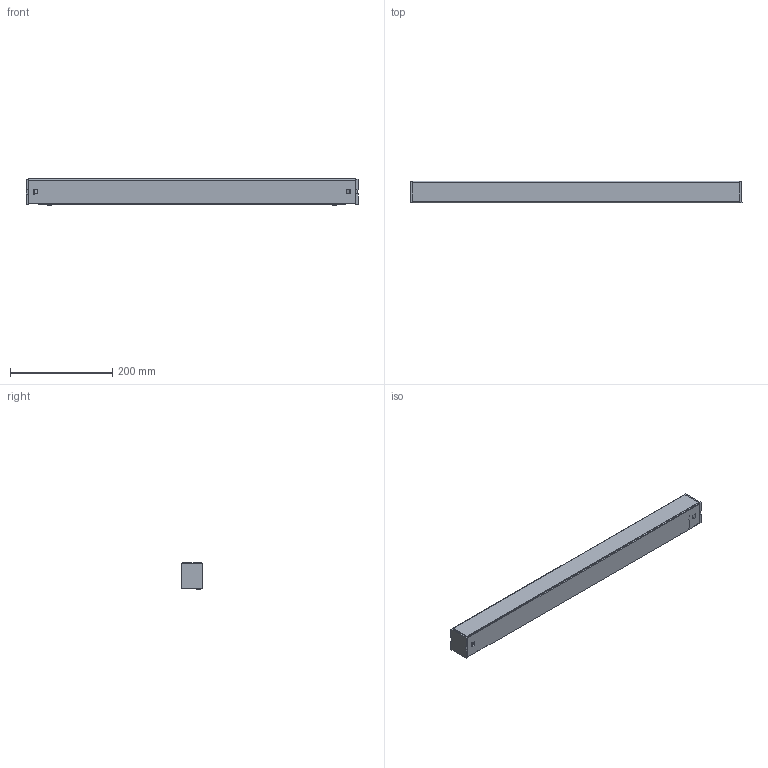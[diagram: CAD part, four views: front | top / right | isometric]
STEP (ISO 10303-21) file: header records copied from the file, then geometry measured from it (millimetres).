
FILE_DESCRIPTION((''),'2;1');
FILE_NAME('1617184683945_ASM','2021-03-31T15:28:22',('SESA176331'),('Schneider-Electric'),'CREO PARAMETRIC BY PTC INC, 2019164','CREO PARAMETRIC BY PTC INC, 2019164','');
FILE_SCHEMA(('AP242_MANAGED_MODEL_BASED_3D_ENGINEERING_MIM_LF { 1 0 10303 442 1 1 4 }'));
Length unit declared in the file: millimetre
Products named in the file (8): SETP-COVER-650_NNZ4557101; SETP-COVER-650_NNZ1946001; SETP-COVER-650_ASM; GDE7930101; SETP-HEAD-3D_ASM; GDE9918901; SETP-BRACKET-3D_ASM; 1617184683945_ASM
Assembly tree (9 placements, depth 3):
  1617184683945_ASM
    SETP-COVER-650_ASM
      SETP-COVER-650_NNZ4557101
      SETP-COVER-650_NNZ1946001
    SETP-HEAD-3D_ASM  x2
      GDE7930101
    SETP-BRACKET-3D_ASM  x2
      GDE9918901
Bounding box: 648 x 42.7 x 51.2 mm (x, y, z)
Volume: 147742.8 mm3; surface area: 267565.7 mm2
Topology: 8 solids, 8 shells, 398 faces, 1114 edges, 778 vertices
Faces by surface type: plane 352, cylinder 46
Entity records: 11595 total; most frequent: CARTESIAN_POINT 1428, ORIENTED_EDGE 1340, DIRECTION 1296, PRESENTATION_STYLE_ASSIGNMENT 699, STYLED_ITEM 698, CURVE_STYLE 693, EDGE_CURVE 670, VECTOR 628
